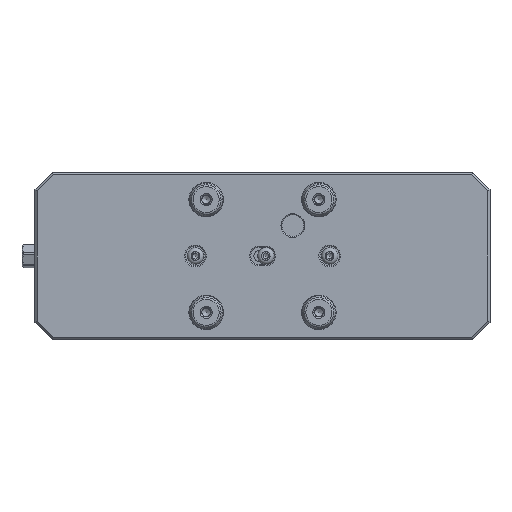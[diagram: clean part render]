
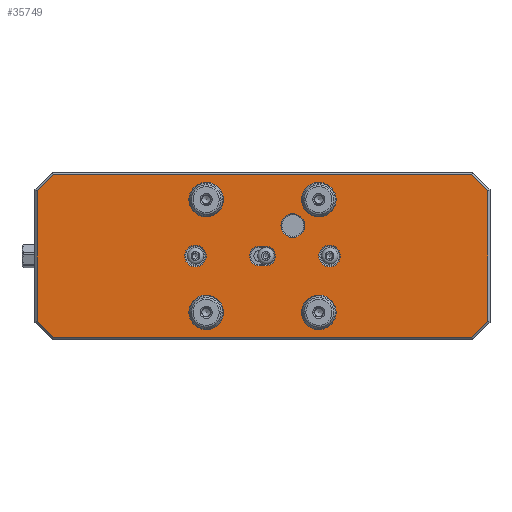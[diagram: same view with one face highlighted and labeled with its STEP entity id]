
A CAD part, front view. The second image highlights one B-rep face of the part: STEP entity #35749.
In plain terms, the highlighted planar face has unit normal (0, -1, 0).
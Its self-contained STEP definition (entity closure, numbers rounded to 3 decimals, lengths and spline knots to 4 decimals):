
#2251=FACE_BOUND('',#12843,.T.);
#2252=FACE_BOUND('',#12844,.T.);
#2253=FACE_BOUND('',#12845,.T.);
#2254=FACE_BOUND('',#12846,.T.);
#2255=FACE_BOUND('',#12847,.T.);
#2256=FACE_BOUND('',#12848,.T.);
#2257=FACE_BOUND('',#12849,.T.);
#2258=FACE_BOUND('',#12850,.T.);
#2954=PLANE('',#38491);
#5096=LINE('',#77723,#8145);
#5097=LINE('',#77725,#8146);
#5098=LINE('',#77727,#8147);
#5099=LINE('',#77729,#8148);
#5100=LINE('',#77731,#8149);
#5101=LINE('',#77733,#8150);
#5102=LINE('',#77735,#8151);
#5103=LINE('',#77736,#8152);
#5104=LINE('',#77738,#8153);
#5105=LINE('',#77741,#8154);
#8145=VECTOR('',#44438,0.3937);
#8146=VECTOR('',#44439,0.3937);
#8147=VECTOR('',#44440,0.3937);
#8148=VECTOR('',#44441,0.3937);
#8149=VECTOR('',#44442,0.3937);
#8150=VECTOR('',#44443,0.3937);
#8151=VECTOR('',#44444,0.3937);
#8152=VECTOR('',#44445,0.3937);
#8153=VECTOR('',#44446,0.0787);
#8154=VECTOR('',#44449,0.0787);
#10714=FACE_OUTER_BOUND('',#12842,.T.);
#12842=EDGE_LOOP('',(#29268,#29269,#29270,#29271,#29272,#29273,#29274,#29275));
#12843=EDGE_LOOP('',(#29276));
#12844=EDGE_LOOP('',(#29277));
#12845=EDGE_LOOP('',(#29278));
#12846=EDGE_LOOP('',(#29279));
#12847=EDGE_LOOP('',(#29280,#29281,#29282,#29283,#29284,#29285));
#12848=EDGE_LOOP('',(#29286));
#12849=EDGE_LOOP('',(#29287));
#12850=EDGE_LOOP('',(#29288));
#14064=CIRCLE('',#37028,0.2952);
#14089=CIRCLE('',#37078,0.2952);
#14114=CIRCLE('',#37128,0.2952);
#14232=CIRCLE('',#37428,0.2952);
#14597=CIRCLE('',#38481,0.1772);
#14599=CIRCLE('',#38484,0.1772);
#14600=CIRCLE('',#38488,0.1772);
#14602=CIRCLE('',#38492,0.1772);
#14603=CIRCLE('',#38493,0.1969);
#14604=CIRCLE('',#38494,0.1969);
#14605=CIRCLE('',#38495,0.2165);
#15152=VERTEX_POINT('',#50403);
#15189=VERTEX_POINT('',#50537);
#15226=VERTEX_POINT('',#50671);
#15585=VERTEX_POINT('',#72929);
#16774=VERTEX_POINT('',#77668);
#16775=VERTEX_POINT('',#77675);
#16780=VERTEX_POINT('',#77698);
#16782=VERTEX_POINT('',#77709);
#16784=VERTEX_POINT('',#77721);
#16785=VERTEX_POINT('',#77722);
#16786=VERTEX_POINT('',#77724);
#16787=VERTEX_POINT('',#77726);
#16788=VERTEX_POINT('',#77728);
#16789=VERTEX_POINT('',#77730);
#16790=VERTEX_POINT('',#77732);
#16791=VERTEX_POINT('',#77734);
#16792=VERTEX_POINT('',#77737);
#16793=VERTEX_POINT('',#77739);
#16794=VERTEX_POINT('',#77742);
#16795=VERTEX_POINT('',#77744);
#16796=VERTEX_POINT('',#77746);
#18766=EDGE_CURVE('',#15152,#15152,#14064,.T.);
#18826=EDGE_CURVE('',#15189,#15189,#14089,.T.);
#18886=EDGE_CURVE('',#15226,#15226,#14114,.T.);
#19427=EDGE_CURVE('',#15585,#15585,#14232,.T.);
#21228=EDGE_CURVE('',#16774,#16775,#14597,.T.);
#21235=EDGE_CURVE('',#16780,#16774,#14599,.T.);
#21240=EDGE_CURVE('',#16775,#16782,#14600,.T.);
#21246=EDGE_CURVE('',#16784,#16785,#5096,.T.);
#21247=EDGE_CURVE('',#16786,#16784,#5097,.T.);
#21248=EDGE_CURVE('',#16787,#16786,#5098,.T.);
#21249=EDGE_CURVE('',#16788,#16787,#5099,.T.);
#21250=EDGE_CURVE('',#16789,#16788,#5100,.T.);
#21251=EDGE_CURVE('',#16790,#16789,#5101,.T.);
#21252=EDGE_CURVE('',#16791,#16790,#5102,.T.);
#21253=EDGE_CURVE('',#16785,#16791,#5103,.T.);
#21254=EDGE_CURVE('',#16792,#16780,#5104,.T.);
#21255=EDGE_CURVE('',#16793,#16792,#14602,.T.);
#21256=EDGE_CURVE('',#16782,#16793,#5105,.T.);
#21257=EDGE_CURVE('',#16794,#16794,#14603,.T.);
#21258=EDGE_CURVE('',#16795,#16795,#14604,.T.);
#21259=EDGE_CURVE('',#16796,#16796,#14605,.T.);
#29268=ORIENTED_EDGE('',*,*,#21246,.F.);
#29269=ORIENTED_EDGE('',*,*,#21247,.F.);
#29270=ORIENTED_EDGE('',*,*,#21248,.F.);
#29271=ORIENTED_EDGE('',*,*,#21249,.F.);
#29272=ORIENTED_EDGE('',*,*,#21250,.F.);
#29273=ORIENTED_EDGE('',*,*,#21251,.F.);
#29274=ORIENTED_EDGE('',*,*,#21252,.F.);
#29275=ORIENTED_EDGE('',*,*,#21253,.F.);
#29276=ORIENTED_EDGE('',*,*,#18766,.T.);
#29277=ORIENTED_EDGE('',*,*,#18826,.T.);
#29278=ORIENTED_EDGE('',*,*,#18886,.T.);
#29279=ORIENTED_EDGE('',*,*,#19427,.T.);
#29280=ORIENTED_EDGE('',*,*,#21228,.F.);
#29281=ORIENTED_EDGE('',*,*,#21235,.F.);
#29282=ORIENTED_EDGE('',*,*,#21254,.F.);
#29283=ORIENTED_EDGE('',*,*,#21255,.F.);
#29284=ORIENTED_EDGE('',*,*,#21256,.F.);
#29285=ORIENTED_EDGE('',*,*,#21240,.F.);
#29286=ORIENTED_EDGE('',*,*,#21257,.F.);
#29287=ORIENTED_EDGE('',*,*,#21258,.F.);
#29288=ORIENTED_EDGE('',*,*,#21259,.F.);
#35749=ADVANCED_FACE('',(#10714,#2251,#2252,#2253,#2254,#2255,#2256,#2257,
#2258),#2954,.T.);
#37028=AXIS2_PLACEMENT_3D('',#50405,#39973,#39974);
#37078=AXIS2_PLACEMENT_3D('',#50539,#40102,#40103);
#37128=AXIS2_PLACEMENT_3D('',#50673,#40231,#40232);
#37428=AXIS2_PLACEMENT_3D('',#72931,#41133,#41134);
#38481=AXIS2_PLACEMENT_3D('',#77676,#44408,#44409);
#38484=AXIS2_PLACEMENT_3D('',#77700,#44415,#44416);
#38488=AXIS2_PLACEMENT_3D('',#77710,#44427,#44428);
#38491=AXIS2_PLACEMENT_3D('',#77720,#44436,#44437);
#38492=AXIS2_PLACEMENT_3D('',#77740,#44447,#44448);
#38493=AXIS2_PLACEMENT_3D('',#77743,#44450,#44451);
#38494=AXIS2_PLACEMENT_3D('',#77745,#44452,#44453);
#38495=AXIS2_PLACEMENT_3D('',#77747,#44454,#44455);
#39973=DIRECTION('center_axis',(0.,1.,0.));
#39974=DIRECTION('ref_axis',(0.,0.,1.));
#40102=DIRECTION('center_axis',(0.,1.,0.));
#40103=DIRECTION('ref_axis',(0.,0.,1.));
#40231=DIRECTION('center_axis',(0.,1.,0.));
#40232=DIRECTION('ref_axis',(0.,0.,1.));
#41133=DIRECTION('center_axis',(0.,1.,0.));
#41134=DIRECTION('ref_axis',(0.,0.,1.));
#44408=DIRECTION('center_axis',(0.,-1.,0.));
#44409=DIRECTION('ref_axis',(1.,0.,0.));
#44415=DIRECTION('center_axis',(0.,-1.,0.));
#44416=DIRECTION('ref_axis',(1.,0.,0.));
#44427=DIRECTION('center_axis',(0.,-1.,0.));
#44428=DIRECTION('ref_axis',(1.,0.,0.));
#44436=DIRECTION('center_axis',(0.,-1.,0.));
#44437=DIRECTION('ref_axis',(0.,0.,-1.));
#44438=DIRECTION('',(0.707,0.,0.707));
#44439=DIRECTION('',(0.,0.,1.));
#44440=DIRECTION('',(-0.707,0.,0.707));
#44441=DIRECTION('',(-1.,0.,0.));
#44442=DIRECTION('',(-0.707,0.,-0.707));
#44443=DIRECTION('',(0.,0.,-1.));
#44444=DIRECTION('',(0.707,0.,-0.707));
#44445=DIRECTION('',(1.,0.,0.));
#44446=DIRECTION('',(1.,0.,0.));
#44447=DIRECTION('center_axis',(0.,-1.,0.));
#44448=DIRECTION('ref_axis',(-1.,0.,0.));
#44449=DIRECTION('',(-1.,0.,0.));
#44450=DIRECTION('center_axis',(0.,-1.,0.));
#44451=DIRECTION('ref_axis',(-1.,0.,0.));
#44452=DIRECTION('center_axis',(0.,-1.,0.));
#44453=DIRECTION('ref_axis',(-1.,0.,0.));
#44454=DIRECTION('center_axis',(0.,-1.,0.));
#44455=DIRECTION('ref_axis',(-1.,0.,0.));
#50403=CARTESIAN_POINT('',(1.0236,0.,-1.3188));
#50405=CARTESIAN_POINT('Origin',(1.0236,0.,-1.0236));
#50537=CARTESIAN_POINT('',(-1.0236,0.,0.7284));
#50539=CARTESIAN_POINT('Origin',(-1.0236,0.,1.0236));
#50671=CARTESIAN_POINT('',(1.0236,0.,0.7284));
#50673=CARTESIAN_POINT('Origin',(1.0236,0.,1.0236));
#72929=CARTESIAN_POINT('',(-1.0236,0.,-1.3188));
#72931=CARTESIAN_POINT('Origin',(-1.0236,0.,-1.0236));
#77668=CARTESIAN_POINT('',(0.0394,0.,-0.1761));
#77675=CARTESIAN_POINT('',(0.0394,0.,0.1761));
#77676=CARTESIAN_POINT('Origin',(0.0591,0.,0.));
#77698=CARTESIAN_POINT('',(0.0197,0.,-0.1772));
#77700=CARTESIAN_POINT('Origin',(0.0197,0.,0.));
#77709=CARTESIAN_POINT('',(0.0197,0.,0.1772));
#77710=CARTESIAN_POINT('Origin',(0.0197,0.,0.));
#77720=CARTESIAN_POINT('Origin',(0.,0.,0.));
#77721=CARTESIAN_POINT('',(-4.0945,0.,1.1845));
#77722=CARTESIAN_POINT('',(-3.8026,0.,1.4764));
#77723=CARTESIAN_POINT('',(-3.294,0.,1.985));
#77724=CARTESIAN_POINT('',(-4.0945,0.,-1.1845));
#77725=CARTESIAN_POINT('',(-4.0945,0.,0.));
#77726=CARTESIAN_POINT('',(-3.8026,0.,-1.4764));
#77727=CARTESIAN_POINT('',(-3.294,0.,-1.985));
#77728=CARTESIAN_POINT('',(3.8026,0.,-1.4764));
#77729=CARTESIAN_POINT('',(-1.2795,0.,-1.4764));
#77730=CARTESIAN_POINT('',(4.0945,0.,-1.1845));
#77731=CARTESIAN_POINT('',(3.294,0.,-1.985));
#77732=CARTESIAN_POINT('',(4.0945,0.,1.1845));
#77733=CARTESIAN_POINT('',(4.0945,0.,0.));
#77734=CARTESIAN_POINT('',(3.8026,0.,1.4764));
#77735=CARTESIAN_POINT('',(3.294,0.,1.985));
#77736=CARTESIAN_POINT('',(-0.3642,0.,1.4764));
#77737=CARTESIAN_POINT('',(-0.0591,0.,-0.1772));
#77738=CARTESIAN_POINT('',(-0.0591,0.,-0.1772));
#77739=CARTESIAN_POINT('',(-0.0591,0.,0.1772));
#77740=CARTESIAN_POINT('Origin',(-0.0591,0.,0.));
#77741=CARTESIAN_POINT('',(0.0197,0.,0.1772));
#77742=CARTESIAN_POINT('',(-1.0236,0.,0.));
#77743=CARTESIAN_POINT('Origin',(-1.2205,0.,0.));
#77744=CARTESIAN_POINT('',(1.4173,0.,0.));
#77745=CARTESIAN_POINT('Origin',(1.2205,0.,0.));
#77746=CARTESIAN_POINT('',(0.7677,0.,0.5512));
#77747=CARTESIAN_POINT('Origin',(0.5512,0.,0.5512));
